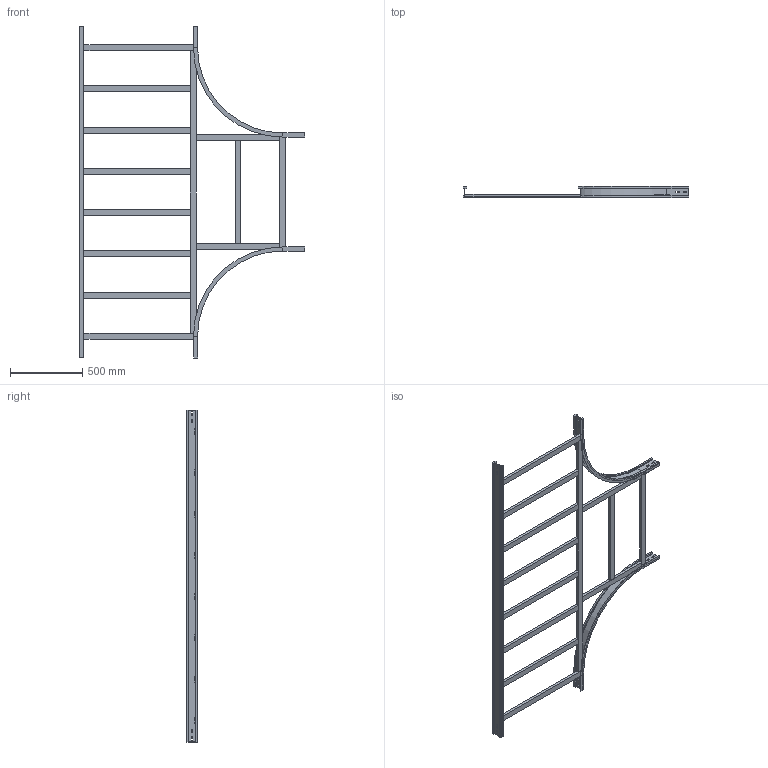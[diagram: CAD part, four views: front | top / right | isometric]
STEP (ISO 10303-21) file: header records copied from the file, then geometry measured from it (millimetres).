
FILE_DESCRIPTION (( 'STEP AP214' ), '1' );
FILE_NAME ('15S6C800.step', '2025-02-21T16:15:38', ( '' ), ( '' ), 'SwSTEP 2.0', 'SolidWorks 2023', '' );
FILE_SCHEMA (( 'AUTOMOTIVE_DESIGN' ));
Length unit declared in the file: millimetre
Products named in the file (8): TRAVERSINO_INTERMEDIO_R600+800; LONGH.RETT_H75_R600+800; TRAVERSINO_VERT_R600; TRAVERSINO_LONG._R600+800; TRAVERSINO_800; 15S6C800; LONGH.INTERNO 90°_H75_R600; TRAVERSINO_COPPIA_800
Assembly tree (16 placements, depth 2):
  15S6C800
    LONGH.INTERNO 90°_H75_R600  x2
    LONGH.RETT_H75_R600+800
    TRAVERSINO_800  x3
    TRAVERSINO_LONG._R600+800
    TRAVERSINO_INTERMEDIO_R600+800  x6
    TRAVERSINO_VERT_R600  x2
    TRAVERSINO_COPPIA_800
Bounding box: 1559 x 75 x 2300 mm (x, y, z)
Volume: 11077016.8 mm3; surface area: 2505992.4 mm2
Topology: 16 solids, 16 shells, 216 faces, 504 edges, 320 vertices
Faces by surface type: plane 204, cylinder 12
Entity records: 3597 total; most frequent: CARTESIAN_POINT 585, DIRECTION 554, ORIENTED_EDGE 552, EDGE_CURVE 276, VECTOR 264, LINE 264, VERTEX_POINT 176, AXIS2_PLACEMENT_3D 145
